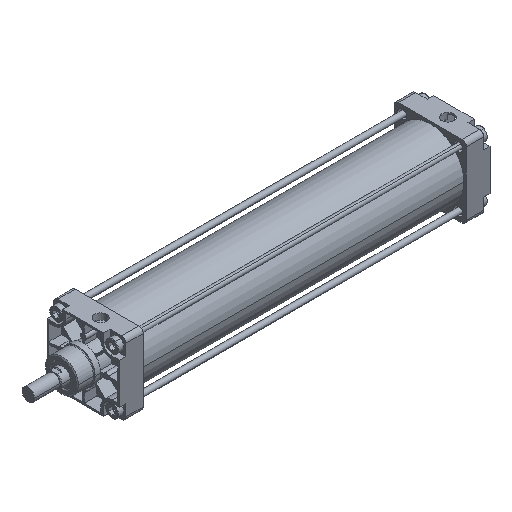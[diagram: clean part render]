
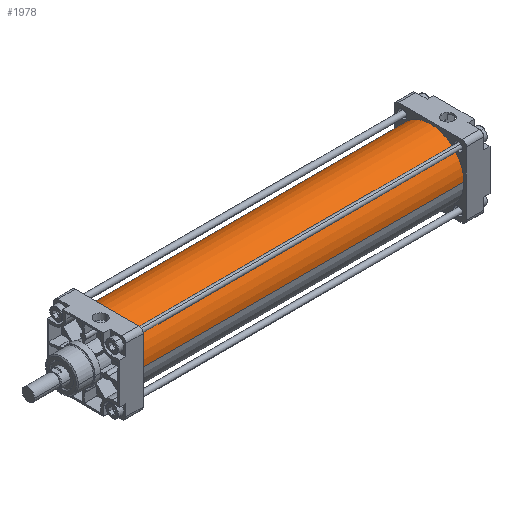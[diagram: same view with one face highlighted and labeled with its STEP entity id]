
A CAD part, isometric view. The second image highlights one B-rep face of the part: STEP entity #1978.
In plain terms, the highlighted cylindrical face has radius 53.5 mm (diameter 107 mm), a partial arc.
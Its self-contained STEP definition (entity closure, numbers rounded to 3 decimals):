
#1682=CARTESIAN_POINT('Axis2P3D Location',(0.,0.,0.)) ;
#1686=CARTESIAN_POINT('Vertex',(0.,53.5,0.)) ;
#1688=CARTESIAN_POINT('Vertex',(0.,-53.5,0.)) ;
#1948=CARTESIAN_POINT('Axis2P3D Location',(257.,0.,0.)) ;
#1953=CARTESIAN_POINT('Line Origine',(257.,53.5,0.)) ;
#1957=CARTESIAN_POINT('Vertex',(514.,53.5,0.)) ;
#1960=CARTESIAN_POINT('Line Origine',(257.,-53.5,0.)) ;
#1964=CARTESIAN_POINT('Vertex',(514.,-53.5,0.)) ;
#1967=CARTESIAN_POINT('Axis2P3D Location',(514.,0.,0.)) ;
#1683=DIRECTION('Axis2P3D Direction',(1.,0.,0.)) ;
#1949=DIRECTION('Axis2P3D Direction',(1.,0.,0.)) ;
#1950=DIRECTION('Axis2P3D XDirection',(0.,1.,0.)) ;
#1954=DIRECTION('Vector Direction',(1.,0.,0.)) ;
#1961=DIRECTION('Vector Direction',(1.,0.,0.)) ;
#1968=DIRECTION('Axis2P3D Direction',(1.,0.,0.)) ;
#1684=AXIS2_PLACEMENT_3D('Circle Axis2P3D',#1682,#1683,$) ;
#1951=AXIS2_PLACEMENT_3D('Cylinder Axis2P3D',#1948,#1949,#1950) ;
#1969=AXIS2_PLACEMENT_3D('Circle Axis2P3D',#1967,#1968,$) ;
#1973=ORIENTED_EDGE('',*,*,#1959,.F.) ;
#1974=ORIENTED_EDGE('',*,*,#1690,.T.) ;
#1975=ORIENTED_EDGE('',*,*,#1966,.T.) ;
#1976=ORIENTED_EDGE('',*,*,#1971,.F.) ;
#1955=VECTOR('Line Direction',#1954,1.) ;
#1962=VECTOR('Line Direction',#1961,1.) ;
#1978=ADVANCED_FACE('PartBody',(#1977),#1952,.T.) ;
#1685=CIRCLE('generated circle',#1684,53.5) ;
#1970=CIRCLE('generated circle',#1969,53.5) ;
#1952=CYLINDRICAL_SURFACE('generated cylinder',#1951,53.5) ;
#1690=EDGE_CURVE('',#1687,#1689,#1685,.T.) ;
#1959=EDGE_CURVE('',#1687,#1958,#1956,.T.) ;
#1966=EDGE_CURVE('',#1689,#1965,#1963,.T.) ;
#1971=EDGE_CURVE('',#1958,#1965,#1970,.T.) ;
#1972=EDGE_LOOP('',(#1973,#1974,#1975,#1976)) ;
#1977=FACE_OUTER_BOUND('',#1972,.T.) ;
#1956=LINE('Line',#1953,#1955) ;
#1963=LINE('Line',#1960,#1962) ;
#1687=VERTEX_POINT('',#1686) ;
#1689=VERTEX_POINT('',#1688) ;
#1958=VERTEX_POINT('',#1957) ;
#1965=VERTEX_POINT('',#1964) ;
